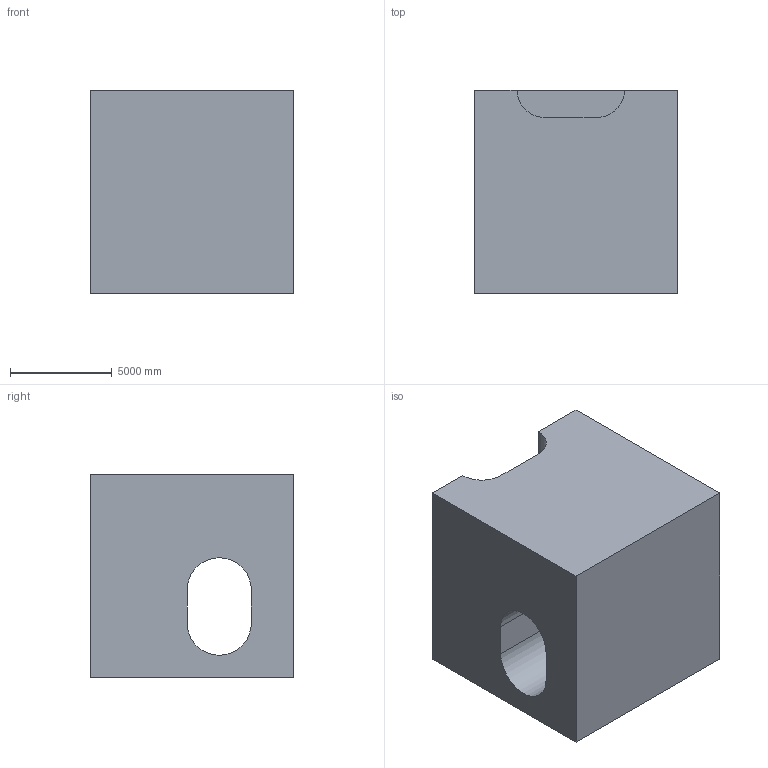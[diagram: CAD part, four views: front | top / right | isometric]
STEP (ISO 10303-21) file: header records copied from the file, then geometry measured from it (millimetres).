
FILE_DESCRIPTION (( 'STEP AP203' ), '1' );
FILE_NAME ('1145.STEP', '2022-08-18T12:56:20', ( 'user' ), ( '' ), 'SwSTEP 2.0', 'SolidWorks 2021', '' );
FILE_SCHEMA (( 'CONFIG_CONTROL_DESIGN' ));
Length unit declared in the file: centimetre
Products named in the file (1): 1145
Bounding box: 10000 x 10000 x 10000 mm (x, y, z)
Volume: 816814746716.1 mm3; surface area: 718843372.9 mm2
Topology: 1 solids, 1 shells, 15 faces, 39 edges, 26 vertices
Faces by surface type: plane 10, cylinder 5
Entity records: 544 total; most frequent: DIRECTION 81, CARTESIAN_POINT 81, ORIENTED_EDGE 78, EDGE_CURVE 39, LINE 29, VECTOR 29, VERTEX_POINT 26, AXIS2_PLACEMENT_3D 26
